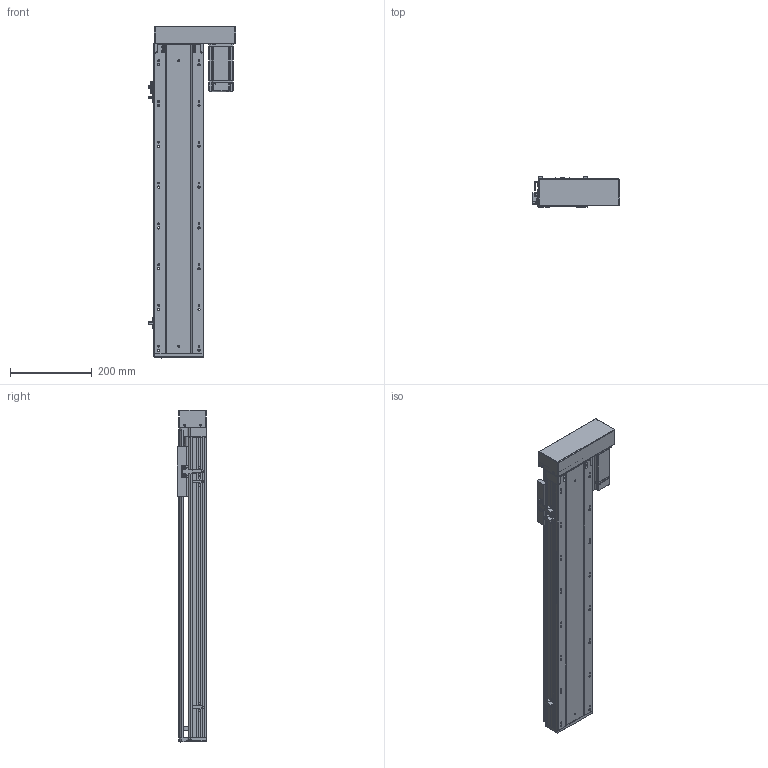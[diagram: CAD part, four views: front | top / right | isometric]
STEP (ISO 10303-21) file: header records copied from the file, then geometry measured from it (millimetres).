
FILE_DESCRIPTION (( 'STEP AP203' ), '1' );
FILE_NAME ('RY120-L2020-300-RK.SLDASM_550.step', '2021-03-12T07:14:21', ( '盈信电脑' ), ( '东莞市道滘镇水果街19号' ), 'SwSTEP 2.0', 'SolidWorks 2012', '' );
FILE_SCHEMA (( 'CONFIG_CONTROL_DESIGN' ));
Products named in the file (15): RY120-L2020-300-RK.SLDASM_550; RY120蛌殏萇儂欶; 15; 侂狟400W侜督萇儂; RY120-400W萇儂傷-酘衵殏_450; RY120外置感应片(140共用）; RY120转拆电端丝杆支撑座(20丝杆，7002轴承); RY120酘殏萇儂假蚾啣; 滅袉蝶18-10; 滅袉蝶18-24; 覜茼ん672; RY120綴裔啣; RY120-300-RK蛌殏倰第菁釱_550; RY120-300-RK蛌殏倰第奻裔啣_550; RY120臏賑輸(20蹟譫)
Assembly tree (17 placements, depth 4):
  RY120-L2020-300-RK.SLDASM_550
    RY120-300-RK蛌殏倰第菁釱_550
    RY120-300-RK蛌殏倰第奻裔啣_550
    RY120臏賑輸(20蹟譫)
    RY120綴裔啣
    覜茼ん672  x3
    滅袉蝶18-10
    滅袉蝶18-24  x2
    RY120外置感应片(140共用）
    RY120转拆电端丝杆支撑座(20丝杆，7002轴承)
    RY120-400W萇儂傷-酘衵殏_450
      RY120酘殏萇儂假蚾啣
      侂狟400W侜督萇儂
        15
      RY120蛌殏萇儂欶
Bounding box: 214.2 x 73 x 814 mm (x, y, z)
Volume: 2558165.7 mm3; surface area: 927163.9 mm2
Topology: 16 solids, 16 shells, 2454 faces, 6755 edges, 4330 vertices
Faces by surface type: plane 1226, cylinder 914, cone 209, bspline 105
Entity records: 81545 total; most frequent: CARTESIAN_POINT 23049, ORIENTED_EDGE 12222, DIRECTION 11243, EDGE_CURVE 6111, VERTEX_POINT 3998, VECTOR 3777, LINE 3777, AXIS2_PLACEMENT_3D 3733
